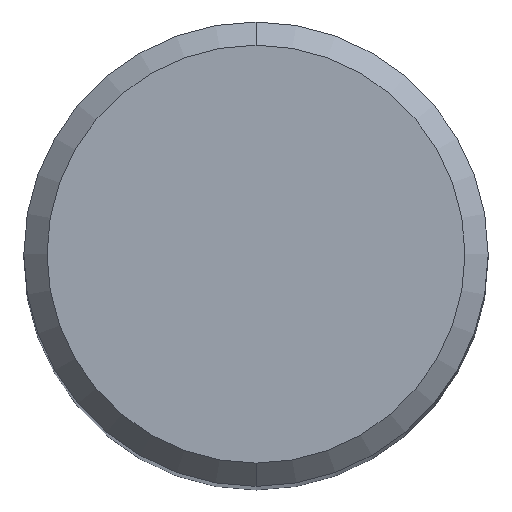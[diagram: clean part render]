
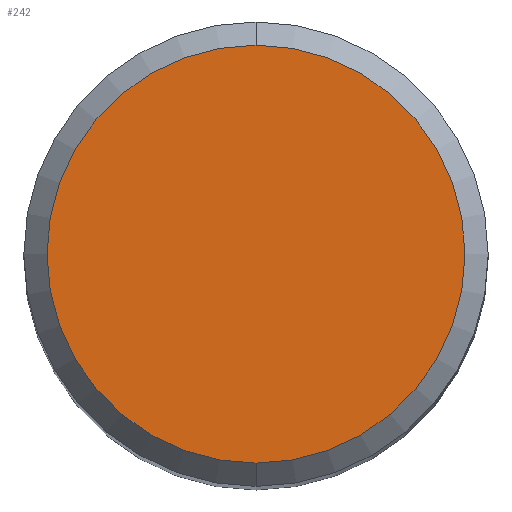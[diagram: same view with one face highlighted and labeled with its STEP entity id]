
A CAD part, top view. The second image highlights one B-rep face of the part: STEP entity #242.
In plain terms, the highlighted planar face has unit normal (0, 0, 1).
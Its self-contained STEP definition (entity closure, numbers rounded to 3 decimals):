
#172=EDGE_CURVE('',#218,#386,#465,.T.);
#218=VERTEX_POINT('',#512);
#242=ADVANCED_FACE('',(#538),#539,.T.);
#386=VERTEX_POINT('',#702);
#420=EDGE_CURVE('',#386,#218,#741,.T.);
#465=CIRCLE('',#780,3.6);
#512=CARTESIAN_POINT('',(0.,-3.6,0.0));
#538=FACE_OUTER_BOUND('',#925,.T.);
#539=PLANE('',#926);
#702=CARTESIAN_POINT('',(0.0,3.6,0.0));
#741=CIRCLE('',#1357,3.6);
#780=AXIS2_PLACEMENT_3D('',#1398,#1399,#1400);
#925=EDGE_LOOP('',(#1469,#1470));
#926=AXIS2_PLACEMENT_3D('',#1471,#1472,#1473);
#1357=AXIS2_PLACEMENT_3D('',#1717,#1718,#1719);
#1398=CARTESIAN_POINT('',(0.0,0.0,0.0));
#1399=DIRECTION('',(0.0,0.0,-1.0));
#1400=DIRECTION('',(0.0,1.0,0.0));
#1469=ORIENTED_EDGE('',*,*,#420,.F.);
#1470=ORIENTED_EDGE('',*,*,#172,.F.);
#1471=CARTESIAN_POINT('',(0.0,1.8,0.0));
#1472=DIRECTION('',(-0.0,0.0,1.0));
#1473=DIRECTION('',(0.0,-1.0,0.0));
#1717=CARTESIAN_POINT('',(0.0,0.0,0.0));
#1718=DIRECTION('',(0.0,0.0,-1.0));
#1719=DIRECTION('',(0.0,1.0,0.0));
